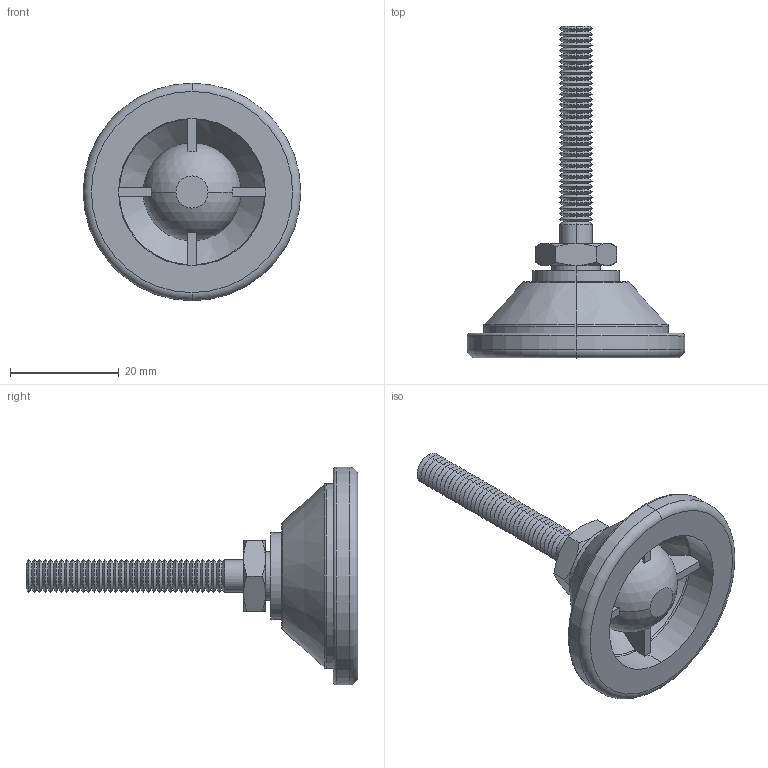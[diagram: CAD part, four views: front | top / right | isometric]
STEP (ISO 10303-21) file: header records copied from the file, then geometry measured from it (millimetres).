
FILE_DESCRIPTION (( 'STEP AP203' ), '1' );
FILE_NAME ('34741.W0062.step', '2016-09-22T07:37:22', ( 'User' ), ( '' ), 'SwSTEP 2.0', 'SolidWorks 2009', '' );
FILE_SCHEMA (( 'CONFIG_CONTROL_DESIGN' ));
Length unit declared in the file: millimetre
Products named in the file (3): Part1_34741.W0062; Part2_34741.W0062; 34741.W0062
Assembly tree (2 placements, depth 2):
  34741.W0062
    Part2_34741.W0062
    Part1_34741.W0062
Bounding box: 40 x 61 x 40 mm (x, y, z)
Volume: 10192.7 mm3; surface area: 7215.5 mm2
Topology: 2 solids, 2 shells, 224 faces, 484 edges, 266 vertices
Faces by surface type: cone 166, plane 26, cylinder 14, torus 12, sphere 6
Entity records: 6337 total; most frequent: CARTESIAN_POINT 1165, DIRECTION 1142, ORIENTED_EDGE 950, AXIS2_PLACEMENT_3D 478, EDGE_CURVE 475, VERTEX_POINT 261, CIRCLE 249, EDGE_LOOP 230
